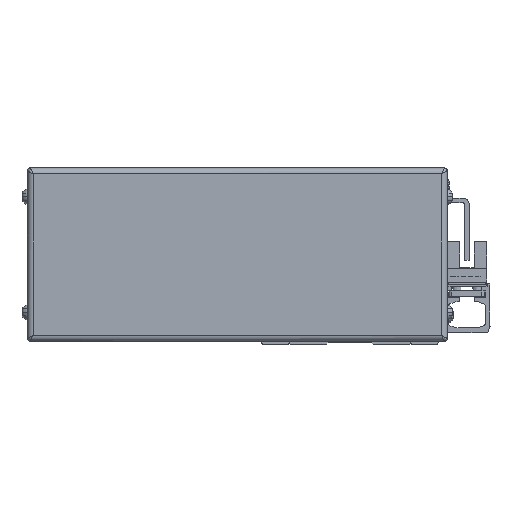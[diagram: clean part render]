
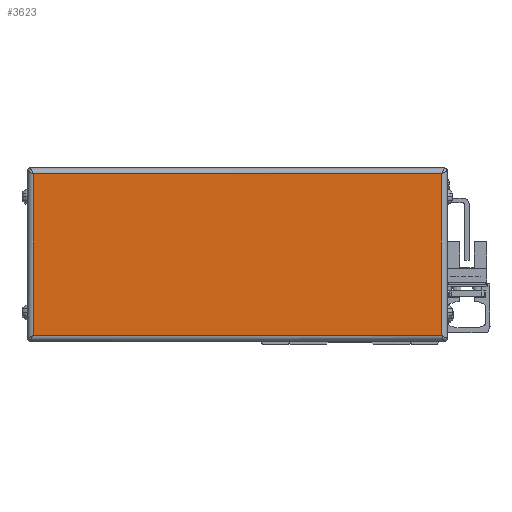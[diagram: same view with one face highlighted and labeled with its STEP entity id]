
A CAD part, left-side view. The second image highlights one B-rep face of the part: STEP entity #3623.
In plain terms, the highlighted planar face has unit normal (-1, 0, 0).
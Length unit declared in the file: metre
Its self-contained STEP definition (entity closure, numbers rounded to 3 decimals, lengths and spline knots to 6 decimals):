
#3623=ADVANCED_FACE('',(#8191),#8192,.T.);
#8191=FACE_OUTER_BOUND('',#14747,.T.);
#8192=PLANE('',#14748);
#14747=EDGE_LOOP('',(#25886,#25887,#25888,#25889));
#14748=AXIS2_PLACEMENT_3D('',#25890,#25891,#25892);
#25886=ORIENTED_EDGE('',*,*,#42295,.T.);
#25887=ORIENTED_EDGE('',*,*,#42296,.T.);
#25888=ORIENTED_EDGE('',*,*,#42297,.T.);
#25889=ORIENTED_EDGE('',*,*,#42298,.T.);
#25890=CARTESIAN_POINT('',(-0.054,0.039,-0.001));
#25891=DIRECTION('',(-1.0,0.0,0.0));
#25892=DIRECTION('',(0.0,0.,1.0));
#42295=EDGE_CURVE('',#49681,#49682,#49683,.T.);
#42296=EDGE_CURVE('',#49682,#49684,#49685,.T.);
#42297=EDGE_CURVE('',#49684,#49686,#49687,.T.);
#42298=EDGE_CURVE('',#49686,#49681,#49688,.T.);
#49681=VERTEX_POINT('',#60138);
#49682=VERTEX_POINT('',#60139);
#49683=LINE('',#60140,#60141);
#49684=VERTEX_POINT('',#60142);
#49685=LINE('',#60143,#60144);
#49686=VERTEX_POINT('',#60145);
#49687=LINE('',#60146,#60147);
#49688=LINE('',#60148,#60149);
#60138=CARTESIAN_POINT('',(-0.054,-0.0317,0.027));
#60139=CARTESIAN_POINT('',(-0.054,0.1097,0.027));
#60140=CARTESIAN_POINT('',(-0.054,0.039,0.027));
#60141=VECTOR('',#73376,1.0);
#60142=CARTESIAN_POINT('',(-0.054,0.1097,-0.029));
#60143=CARTESIAN_POINT('',(-0.054,0.1097,-0.001));
#60144=VECTOR('',#73377,1.0);
#60145=CARTESIAN_POINT('',(-0.054,-0.0317,-0.029));
#60146=CARTESIAN_POINT('',(-0.054,0.039,-0.029));
#60147=VECTOR('',#73378,1.0);
#60148=CARTESIAN_POINT('',(-0.054,-0.0317,-0.001));
#60149=VECTOR('',#73379,1.0);
#73376=DIRECTION('',(0.0,1.0,0.));
#73377=DIRECTION('',(0.0,0.,-1.0));
#73378=DIRECTION('',(0.0,-1.0,0.));
#73379=DIRECTION('',(0.0,0.,1.0));
